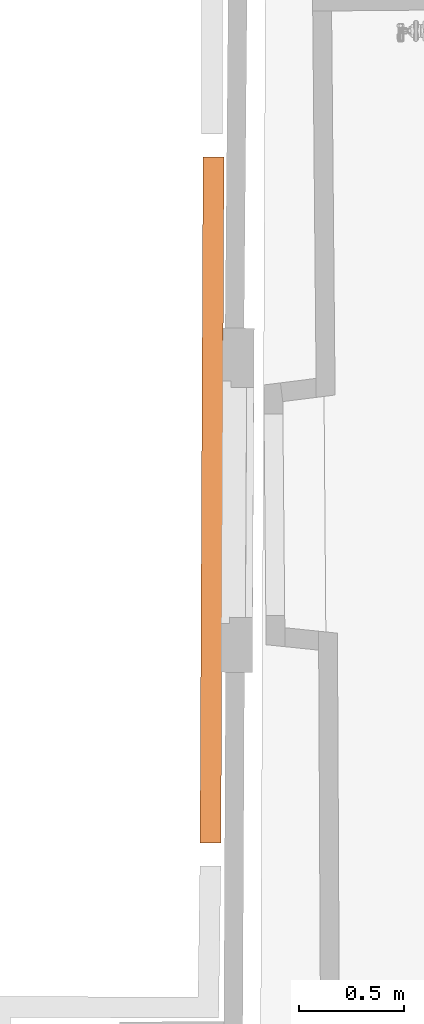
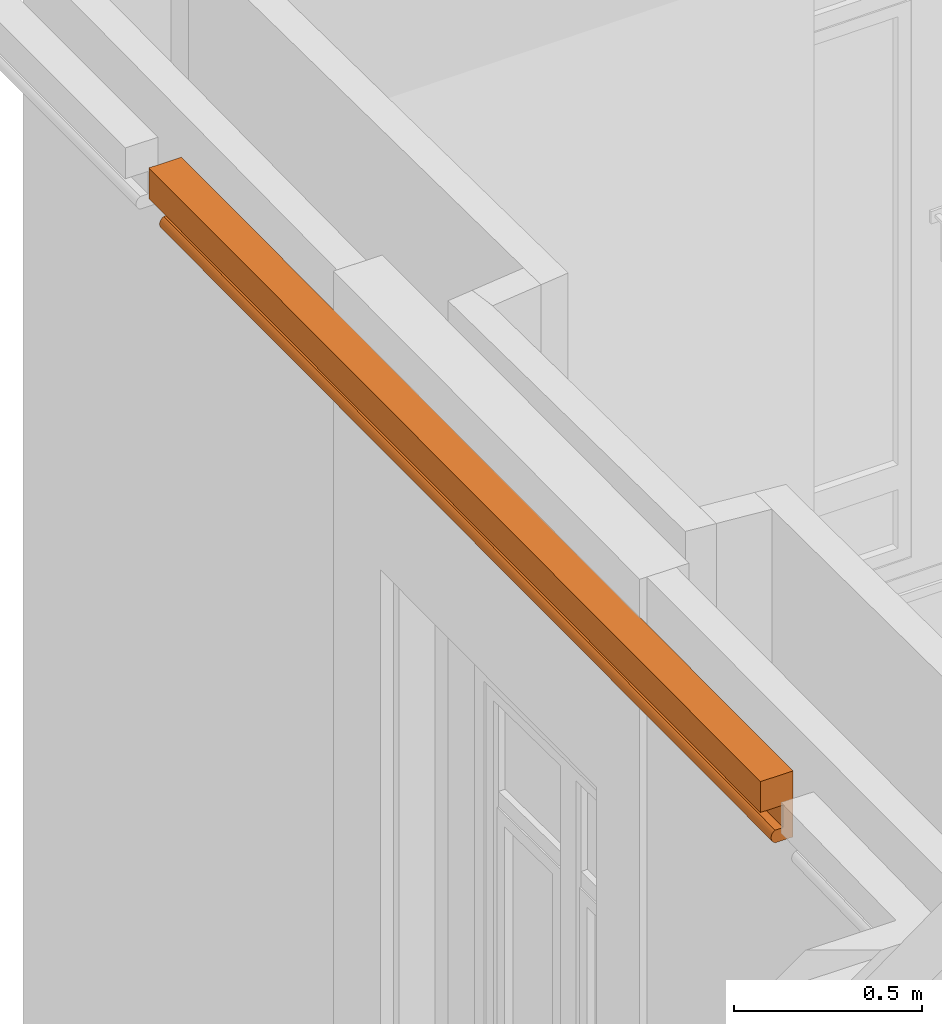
# One storey, part 58 of 66: 1 proxy.
"""IFC2X3 building model written with IfcOpenShell, lengths in centimetres."""

from ifc_helpers import new_model, entity, si_unit, converted_unit, point, direction, frame, frame_2d, origin, origin_with_axes, place, context, subcontext, project, spatial, polyline, circle_curve, trimmed, segment, composite_curve, outline, extrude, source, transform, mapped, material, type_object, element, save


model = new_model("IFC2X3")

# Units and contexts
model_context = context("Model", 3, precision=0.0001, world=origin(), true_north=direction((0.225632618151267, 0.974212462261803, 0.0)))
body_context = subcontext(model_context, "Body", "Model", "MODEL_VIEW")
ifc_project = project(units=[si_unit("LENGTHUNIT", "METRE", prefix="CENTI"), si_unit("AREAUNIT", "SQUARE_METRE", prefix="CENTI"), si_unit("VOLUMEUNIT", "CUBIC_METRE", prefix="CENTI"), converted_unit("PLANEANGLEUNIT", "DEGREE", entity("IfcRatioMeasure", 0.0174532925), si_unit("PLANEANGLEUNIT", "RADIAN"), dimensions=[0, 0, 0, 0, 0, 0, 0])], contexts=[model_context])

# Site, building, storey
site_placement = place(None, origin_with_axes())
site = spatial("IfcSite", under=ifc_project, at=site_placement, Name="Default Site", CompositionType="ELEMENT")
building_placement = place(site_placement, origin_with_axes())
building = spatial("IfcBuilding", under=site, at=building_placement, Name="Default Building", CompositionType="ELEMENT")
storey_placement = place(building_placement, frame((0.0, 0.0, 477.795358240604), z_axis=(0.0, 0.0, 1.0), x_axis=(1.0, 0.0, 0.0)))
storey = spatial("IfcBuildingStorey", under=building, at=storey_placement, Name="Niveau 1", CompositionType="ELEMENT", Elevation=477.795358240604)

# Proxy
ifc_material = material(Name="Aluminium mat")
building_element_proxy_type = type_object("IfcBuildingElementProxyType", Name="Corniche niv1", PredefinedType="NOTDEFINED", material=ifc_material)
shared_shape = source(origin_with_axes(), body_context, "Body", "SweptSolid", [
    extrude(outline(composite_curve([segment(trimmed(circle_curve(frame_2d((0.268889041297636, 10.5360105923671), x_axis=(1.0, 0.0)), 2.2994959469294), [point((1.31060948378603, 8.48601056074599))], [point((1.31060948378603, 12.5860106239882))], True, "CARTESIAN"), True, "CONTINUOUS"), segment(polyline([(1.31060948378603, 12.5860106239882), (-4.15787333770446, 12.5860106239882), (-4.15787333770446, -8.8139892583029), (5.82834186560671, -8.8139892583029), (5.82834186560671, 1.18601056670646), (-1.15787333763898, 1.18601056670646), (-1.15787333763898, 8.48601056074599), (1.31060948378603, 8.48601056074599)]), True, "CONTINUOUS")], self_intersect=False)), origin_with_axes(), (0.0, 0.0, 1.0), 100.0),
])
proxy_placement = place(storey_placement, frame((-1259.87494307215, 297.51, 342.0), z_axis=(-0.00441793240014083, -0.999990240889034, 0.0), x_axis=(-0.999990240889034, 0.00441793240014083, 1.22464679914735e-16)))
element("IfcBuildingElementProxy", 1, at=proxy_placement, inside=storey, type_object=building_element_proxy_type, material=ifc_material, Name="Extrusion (solide) 449948", context=body_context, shape_type="MappedRepresentation", body=[
    mapped(shared_shape, transform((4.15787333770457, -12.5860106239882, 0.0), x_axis=(1.0, 2.46519032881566e-32, -1.17929197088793e-50), y_axis=(0.0, 1.0, -6.41463530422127e-50), z_axis=(1.06078795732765e-18, 1.39245745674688e-34, -1.0), scale=1.0, scale2=1.0, scale3=3.27063191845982, uniform=False)),
])

save(model, "model.ifc")
